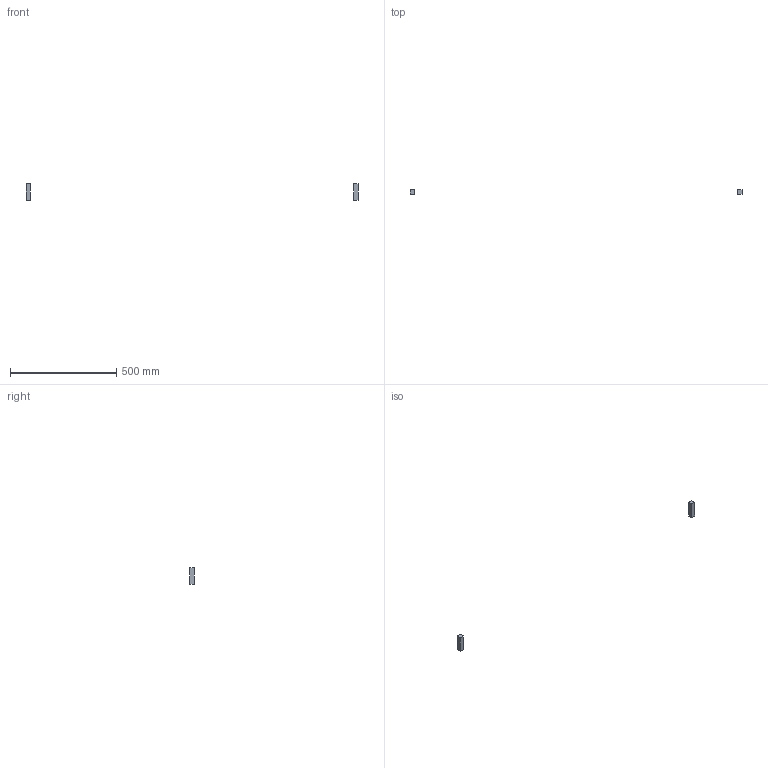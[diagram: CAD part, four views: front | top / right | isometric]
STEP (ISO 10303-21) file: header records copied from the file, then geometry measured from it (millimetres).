
FILE_DESCRIPTION(/* description */ (''),/* implementation_level */ '2;1');
FILE_NAME(/* name */ '4.frame-door#4.3#HFS5-2020-80',/* time_stamp */ '2014-12-01T20:12:38+01:00',/* author */ (''),/* organization */ (''),/* preprocessor_version */ 'ST-DEVELOPER v14',/* originating_system */ '',/* authorisation */ '');
FILE_SCHEMA (('AUTOMOTIVE_DESIGN'));
Length unit declared in the file: millimetre
Products named in the file (1): Document
Bounding box: 1564 x 20 x 80 mm (x, y, z)
Volume: 64000 mm3; surface area: 14400 mm2
Topology: 2 solids, 2 shells, 12 faces, 24 edges, 16 vertices
Faces by surface type: plane 12
Entity records: 571 total; most frequent: CARTESIAN_POINT 174, B_SPLINE_CURVE_WITH_KNOTS 72, ORIENTED_EDGE 48, PCURVE 48, DEFINITIONAL_REPRESENTATION 48, SURFACE_CURVE 24, EDGE_CURVE 24, VERTEX_POINT 16
